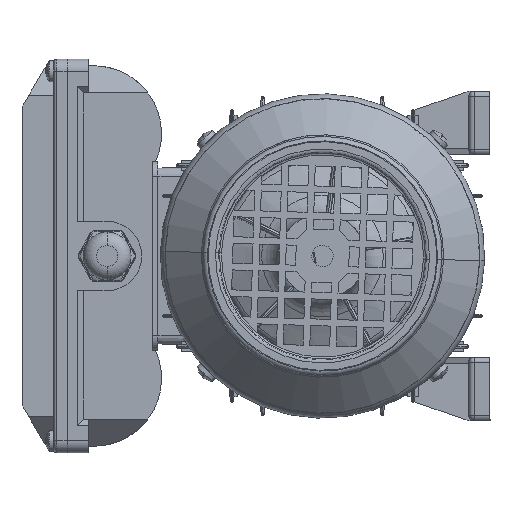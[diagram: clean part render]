
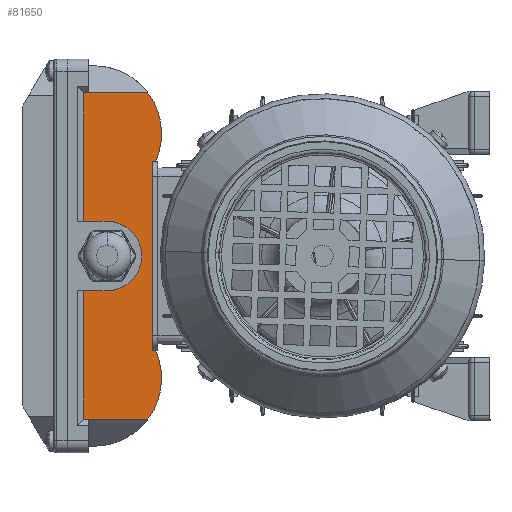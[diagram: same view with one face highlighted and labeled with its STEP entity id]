
A CAD part, left-side view. The second image highlights one B-rep face of the part: STEP entity #81650.
In plain terms, the highlighted planar face has unit normal (-1, 0, 0) as drawn and (0, 0, -1) by its records, which use the part's own axes.
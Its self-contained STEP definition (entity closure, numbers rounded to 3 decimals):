
#5689 = CARTESIAN_POINT ( 'NONE',  ( 74.475, 10.878, 2.5 ) ) ;
#6613 = CARTESIAN_POINT ( 'NONE',  ( 26.147, 12.818, 2.5 ) ) ;
#9480 = CARTESIAN_POINT ( 'NONE',  ( 13.147, 3.878, 2.5 ) ) ;
#10699 = VERTEX_POINT ( 'NONE', #77969 ) ;
#11615 = ORIENTED_EDGE ( 'NONE', *, *, #50106, .T. ) ;
#15696 = CARTESIAN_POINT ( 'NONE',  ( 0.147, 3.878, 2.5 ) ) ;
#16468 = LINE ( 'NONE', #38372, #115886 ) ;
#17272 = VERTEX_POINT ( 'NONE', #89260 ) ;
#19993 = VECTOR ( 'NONE', #87451, 1000. ) ;
#20027 = ORIENTED_EDGE ( 'NONE', *, *, #56604, .F. ) ;
#20450 = VECTOR ( 'NONE', #98285, 1000. ) ;
#20571 = EDGE_CURVE ( 'NONE', #65370, #10699, #53701, .T. ) ;
#20945 = EDGE_CURVE ( 'NONE', #110931, #86052, #85273, .T. ) ;
#21398 = CARTESIAN_POINT ( 'NONE',  ( 26.147, 12.818, 2.5 ) ) ;
#22307 = CARTESIAN_POINT ( 'NONE',  ( 74.475, 16.878, 2.5 ) ) ;
#22643 = VERTEX_POINT ( 'NONE', #41165 ) ;
#23604 = DIRECTION ( 'NONE',  ( 1., 0., 0. ) ) ;
#23737 = AXIS2_PLACEMENT_3D ( 'NONE', #78779, #69505, #23604 ) ;
#24262 = FACE_OUTER_BOUND ( 'NONE', #82754, .T. ) ;
#24539 = VERTEX_POINT ( 'NONE', #48072 ) ;
#25088 = EDGE_CURVE ( 'NONE', #98867, #22643, #109140, .T. ) ;
#25542 = AXIS2_PLACEMENT_3D ( 'NONE', #84684, #83892, #102041 ) ;
#27589 = EDGE_CURVE ( 'NONE', #65370, #17272, #42405, .T. ) ;
#28129 = DIRECTION ( 'NONE',  ( 0., 0., -1. ) ) ;
#30356 = EDGE_CURVE ( 'NONE', #118703, #10699, #45933, .T. ) ;
#30520 = CARTESIAN_POINT ( 'NONE',  ( 0.147, 16.878, 2.5 ) ) ;
#30681 = VERTEX_POINT ( 'NONE', #30790 ) ;
#30790 = CARTESIAN_POINT ( 'NONE',  ( 48.647, -14.36, 2.5 ) ) ;
#31464 = CARTESIAN_POINT ( 'NONE',  ( -22.353, -13.122, 2.5 ) ) ;
#34218 = ORIENTED_EDGE ( 'NONE', *, *, #25088, .T. ) ;
#34274 = DIRECTION ( 'NONE',  ( 1., 0., 0. ) ) ;
#35833 = CARTESIAN_POINT ( 'NONE',  ( 48.647, -13.122, 2.5 ) ) ;
#38372 = CARTESIAN_POINT ( 'NONE',  ( 74.475, 10.878, 2.5 ) ) ;
#40730 = CARTESIAN_POINT ( 'NONE',  ( -60.853, 12.818, 2.5 ) ) ;
#41165 = CARTESIAN_POINT ( 'NONE',  ( 74.475, 12.818, 2.5 ) ) ;
#42019 = ORIENTED_EDGE ( 'NONE', *, *, #117061, .F. ) ;
#42405 = LINE ( 'NONE', #56728, #101408 ) ;
#43611 = ORIENTED_EDGE ( 'NONE', *, *, #71458, .F. ) ;
#45933 = LINE ( 'NONE', #30520, #58857 ) ;
#48072 = CARTESIAN_POINT ( 'NONE',  ( -48.182, -11.501, 2.5 ) ) ;
#50106 = EDGE_CURVE ( 'NONE', #30681, #87556, #57372, .T. ) ;
#51082 = ORIENTED_EDGE ( 'NONE', *, *, #107143, .F. ) ;
#51347 = DIRECTION ( 'NONE',  ( 0., 1., 0. ) ) ;
#51459 = AXIS2_PLACEMENT_3D ( 'NONE', #97851, #80128, #34274 ) ;
#53701 = LINE ( 'NONE', #60518, #20450 ) ;
#54273 = CIRCLE ( 'NONE', #23737, 25.5 ) ;
#55095 = DIRECTION ( 'NONE',  ( 1., 0., 0. ) ) ;
#55164 = DIRECTION ( 'NONE',  ( 0., 1., 0. ) ) ;
#56122 = DIRECTION ( 'NONE',  ( 0., 1., 0. ) ) ;
#56604 = EDGE_CURVE ( 'NONE', #30681, #88699, #119145, .T. ) ;
#56728 = CARTESIAN_POINT ( 'NONE',  ( -48.182, 16.878, 2.5 ) ) ;
#57372 = LINE ( 'NONE', #35833, #103440 ) ;
#58132 = CARTESIAN_POINT ( 'NONE',  ( 13.147, -13.122, 2.5 ) ) ;
#58857 = VECTOR ( 'NONE', #95233, 1000. ) ;
#60518 = CARTESIAN_POINT ( 'NONE',  ( -60.853, 12.818, 2.5 ) ) ;
#62606 = CIRCLE ( 'NONE', #65477, 13. ) ;
#65370 = VERTEX_POINT ( 'NONE', #88705 ) ;
#65477 = AXIS2_PLACEMENT_3D ( 'NONE', #9480, #28129, #55095 ) ;
#66185 = PLANE ( 'NONE',  #25542 ) ;
#67365 = VECTOR ( 'NONE', #112971, 1000. ) ;
#68862 = DIRECTION ( 'NONE',  ( 0., 1., 0. ) ) ;
#69505 = DIRECTION ( 'NONE',  ( 0., 0., 1. ) ) ;
#69808 = LINE ( 'NONE', #22307, #117435 ) ;
#70419 = VERTEX_POINT ( 'NONE', #5689 ) ;
#71458 = EDGE_CURVE ( 'NONE', #17272, #24539, #80305, .T. ) ;
#72224 = ORIENTED_EDGE ( 'NONE', *, *, #88306, .F. ) ;
#77969 = CARTESIAN_POINT ( 'NONE',  ( 0.147, 12.818, 2.5 ) ) ;
#78279 = ORIENTED_EDGE ( 'NONE', *, *, #20945, .F. ) ;
#78779 = CARTESIAN_POINT ( 'NONE',  ( -32.853, 8.878, 2.5 ) ) ;
#79435 = CARTESIAN_POINT ( 'NONE',  ( 26.147, 3.878, 2.5 ) ) ;
#80128 = DIRECTION ( 'NONE',  ( 0., 0., 1. ) ) ;
#80305 = LINE ( 'NONE', #84403, #67365 ) ;
#81650 = ADVANCED_FACE ( 'NONE', ( #24262 ), #66185, .F. ) ;
#82754 = EDGE_LOOP ( 'NONE', ( #42019, #99122, #34218, #51082, #86720, #20027, #11615, #112298, #78279, #72224, #43611, #113902, #110585, #92192 ) ) ;
#82823 = CARTESIAN_POINT ( 'NONE',  ( -22.353, -14.36, 2.5 ) ) ;
#83892 = DIRECTION ( 'NONE',  ( 0., 0., 1. ) ) ;
#84403 = CARTESIAN_POINT ( 'NONE',  ( -48.182, 16.878, 2.5 ) ) ;
#84684 = CARTESIAN_POINT ( 'NONE',  ( -60.853, 12.818, 2.5 ) ) ;
#85273 = LINE ( 'NONE', #31464, #105408 ) ;
#86052 = VERTEX_POINT ( 'NONE', #91544 ) ;
#86155 = DIRECTION ( 'NONE',  ( 1., 0., 0. ) ) ;
#86720 = ORIENTED_EDGE ( 'NONE', *, *, #115574, .F. ) ;
#87451 = DIRECTION ( 'NONE',  ( -1., 0., 0. ) ) ;
#87556 = VERTEX_POINT ( 'NONE', #112024 ) ;
#87711 = LINE ( 'NONE', #58132, #19993 ) ;
#88306 = EDGE_CURVE ( 'NONE', #24539, #110931, #54273, .T. ) ;
#88699 = VERTEX_POINT ( 'NONE', #94317 ) ;
#88705 = CARTESIAN_POINT ( 'NONE',  ( -48.182, 12.818, 2.5 ) ) ;
#89260 = CARTESIAN_POINT ( 'NONE',  ( -48.182, 10.878, 2.5 ) ) ;
#89959 = VECTOR ( 'NONE', #104756, 1000. ) ;
#91544 = CARTESIAN_POINT ( 'NONE',  ( -22.353, -13.122, 2.5 ) ) ;
#92192 = ORIENTED_EDGE ( 'NONE', *, *, #30356, .F. ) ;
#93262 = EDGE_CURVE ( 'NONE', #87556, #86052, #87711, .T. ) ;
#94101 = DIRECTION ( 'NONE',  ( 0., -1., 0. ) ) ;
#94317 = CARTESIAN_POINT ( 'NONE',  ( 74.475, -11.501, 2.5 ) ) ;
#95233 = DIRECTION ( 'NONE',  ( 0., 1., 0. ) ) ;
#97851 = CARTESIAN_POINT ( 'NONE',  ( 59.147, 8.878, 2.5 ) ) ;
#98285 = DIRECTION ( 'NONE',  ( 1., 0., 0. ) ) ;
#98867 = VERTEX_POINT ( 'NONE', #6613 ) ;
#99122 = ORIENTED_EDGE ( 'NONE', *, *, #107371, .T. ) ;
#101408 = VECTOR ( 'NONE', #94101, 1000. ) ;
#102041 = DIRECTION ( 'NONE',  ( 1., 0., 0. ) ) ;
#103440 = VECTOR ( 'NONE', #55164, 1000. ) ;
#104756 = DIRECTION ( 'NONE',  ( 0., 1., 0. ) ) ;
#105408 = VECTOR ( 'NONE', #68862, 1000. ) ;
#106131 = VECTOR ( 'NONE', #86155, 1000. ) ;
#107143 = EDGE_CURVE ( 'NONE', #70419, #22643, #16468, .T. ) ;
#107371 = EDGE_CURVE ( 'NONE', #117834, #98867, #108718, .T. ) ;
#108718 = LINE ( 'NONE', #21398, #89959 ) ;
#109140 = LINE ( 'NONE', #40730, #106131 ) ;
#110585 = ORIENTED_EDGE ( 'NONE', *, *, #20571, .T. ) ;
#110931 = VERTEX_POINT ( 'NONE', #82823 ) ;
#112024 = CARTESIAN_POINT ( 'NONE',  ( 48.647, -13.122, 2.5 ) ) ;
#112298 = ORIENTED_EDGE ( 'NONE', *, *, #93262, .T. ) ;
#112971 = DIRECTION ( 'NONE',  ( 0., -1., 0. ) ) ;
#113902 = ORIENTED_EDGE ( 'NONE', *, *, #27589, .F. ) ;
#115574 = EDGE_CURVE ( 'NONE', #88699, #70419, #69808, .T. ) ;
#115886 = VECTOR ( 'NONE', #56122, 1000. ) ;
#117061 = EDGE_CURVE ( 'NONE', #117834, #118703, #62606, .T. ) ;
#117435 = VECTOR ( 'NONE', #51347, 1000. ) ;
#117834 = VERTEX_POINT ( 'NONE', #79435 ) ;
#118703 = VERTEX_POINT ( 'NONE', #15696 ) ;
#119145 = CIRCLE ( 'NONE', #51459, 25.5 ) ;
